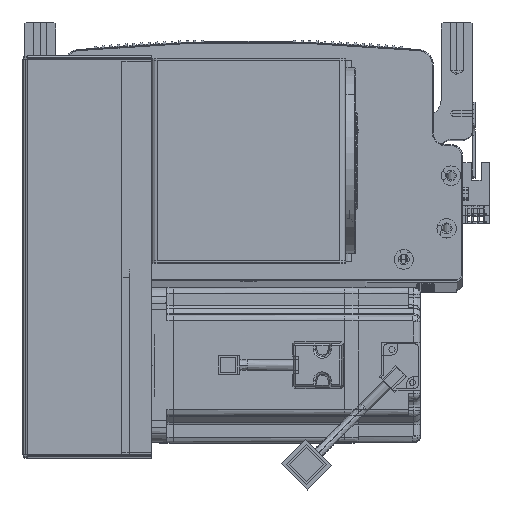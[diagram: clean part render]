
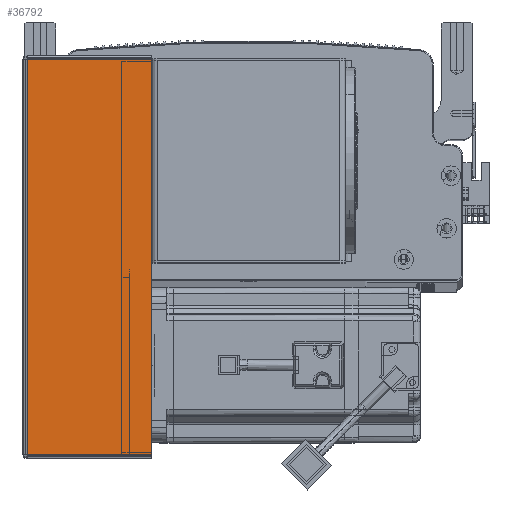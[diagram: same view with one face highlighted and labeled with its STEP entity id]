
A CAD part, top view. The second image highlights one B-rep face of the part: STEP entity #36792.
In plain terms, the highlighted planar face has unit normal (0, 0, 1) as drawn and (0, -1, 0) by its records, which use the part's own axes.
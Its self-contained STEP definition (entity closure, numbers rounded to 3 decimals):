
#319 = LINE ( 'NONE', #31777, #93835 ) ;
#5319 = VERTEX_POINT ( 'NONE', #22627 ) ;
#7504 = CARTESIAN_POINT ( 'NONE',  ( 64.5, -1.5, -0.707 ) ) ;
#8183 = ORIENTED_EDGE ( 'NONE', *, *, #23665, .F. ) ;
#10991 = FACE_OUTER_BOUND ( 'NONE', #12978, .T. ) ;
#12978 = EDGE_LOOP ( 'NONE', ( #56463, #42695, #27717, #8183 ) ) ;
#15272 = CARTESIAN_POINT ( 'NONE',  ( 0.737, -1.5, -0.707 ) ) ;
#17027 = CARTESIAN_POINT ( 'NONE',  ( 64.5, -1.5, 0. ) ) ;
#17104 = DIRECTION ( 'NONE',  ( 0., 0., 1. ) ) ;
#22627 = CARTESIAN_POINT ( 'NONE',  ( 0.737, -1.5, -203.293 ) ) ;
#22686 = VERTEX_POINT ( 'NONE', #66538 ) ;
#23665 = EDGE_CURVE ( 'NONE', #24996, #39247, #87261, .T. ) ;
#23831 = DIRECTION ( 'NONE',  ( 0., 1., 0. ) ) ;
#24996 = VERTEX_POINT ( 'NONE', #15272 ) ;
#27717 = ORIENTED_EDGE ( 'NONE', *, *, #70362, .T. ) ;
#30961 = EDGE_CURVE ( 'NONE', #5319, #22686, #53405, .T. ) ;
#31347 = DIRECTION ( 'NONE',  ( -1., 0., 0. ) ) ;
#31777 = CARTESIAN_POINT ( 'NONE',  ( 0.737, -1.5, 0. ) ) ;
#32010 = PLANE ( 'NONE',  #39989 ) ;
#36792 = ADVANCED_FACE ( 'NONE', ( #10991 ), #32010, .F. ) ;
#37149 = EDGE_CURVE ( 'NONE', #5319, #24996, #319, .T. ) ;
#39247 = VERTEX_POINT ( 'NONE', #7504 ) ;
#39532 = VECTOR ( 'NONE', #77388, 1000. ) ;
#39989 = AXIS2_PLACEMENT_3D ( 'NONE', #68585, #23831, #31347 ) ;
#42695 = ORIENTED_EDGE ( 'NONE', *, *, #30961, .T. ) ;
#53405 = LINE ( 'NONE', #62360, #75572 ) ;
#56463 = ORIENTED_EDGE ( 'NONE', *, *, #37149, .F. ) ;
#59334 = DIRECTION ( 'NONE',  ( 1., 0., 0. ) ) ;
#60615 = CARTESIAN_POINT ( 'NONE',  ( 0., -1.5, -0.707 ) ) ;
#62360 = CARTESIAN_POINT ( 'NONE',  ( 0., -1.5, -203.293 ) ) ;
#64901 = VECTOR ( 'NONE', #59334, 1000. ) ;
#66538 = CARTESIAN_POINT ( 'NONE',  ( 64.5, -1.5, -203.293 ) ) ;
#68585 = CARTESIAN_POINT ( 'NONE',  ( 0., -1.5, 0. ) ) ;
#70362 = EDGE_CURVE ( 'NONE', #22686, #39247, #79243, .T. ) ;
#75572 = VECTOR ( 'NONE', #92142, 1000. ) ;
#77388 = DIRECTION ( 'NONE',  ( 0., 0., 1. ) ) ;
#79243 = LINE ( 'NONE', #17027, #39532 ) ;
#87261 = LINE ( 'NONE', #60615, #64901 ) ;
#92142 = DIRECTION ( 'NONE',  ( 1., 0., 0. ) ) ;
#93835 = VECTOR ( 'NONE', #17104, 1000. ) ;
